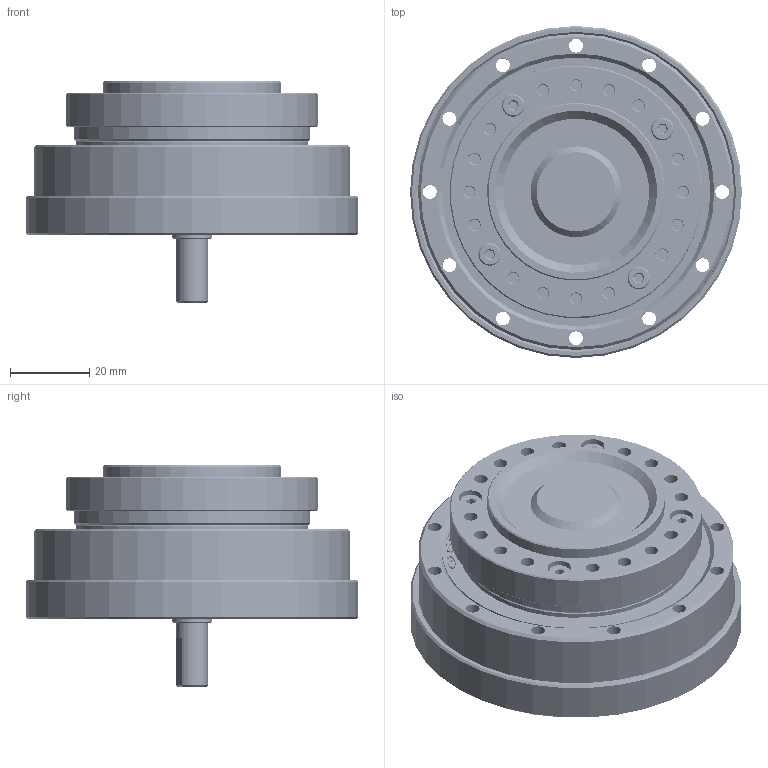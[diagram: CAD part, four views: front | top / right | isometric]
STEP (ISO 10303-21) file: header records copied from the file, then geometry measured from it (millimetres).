
FILE_DESCRIPTION(/* description */ (''),/* implementation_level */ '2;1');
FILE_NAME(/* name */ 'XBJ17成品图.prt.stp',/* time_stamp */ '2022-07-21T18:17:42+08:00',/* author */ (''),/* organization */ (''),/* preprocessor_version */ 'ST-DEVELOPER v16',/* originating_system */ 'SIEMENS PLM Software NX 10.0',/* authorisation */ '');
FILE_SCHEMA (('CONFIG_CONTROL_DESIGN'));
Products named in the file (20): M2X6; XBK17-4-1-1销子; M3X12; 深沟球轴承697-ZZ; 17-柔性轴承（日标）; XBS17-3-1凸轮; 平键销3X8; XBJ17-5输入轴; G10205; 内卡簧φ22X1.0; 深沟球轴承6900-ZZ; XBJ17-7下盖板; XBJ17-6上盖板; YM3X10; XBK17-1钢轮; G59685; XBK17-4-2外圈; XBK17-2柔轮; XBK17-4-1内芯_MODEL; XBJ17成品图
Assembly tree (25 placements, depth 3):
  XBJ17成品图
    XBK17-2柔轮
    XBK17-4-2外圈
    G59685
    XBK17-4-1内芯_MODEL
      XBK17-4-1-1销子
      M2X6
    XBK17-1钢轮
    YM3X10  x4
    XBJ17-6上盖板
    XBJ17-7下盖板
    深沟球轴承6900-ZZ
    内卡簧φ22X1.0
    G10205
    XBJ17-5输入轴
    平键销3X8
    XBS17-3-1凸轮
    17-柔性轴承（日标）
    深沟球轴承697-ZZ
    M3X12  x4
Bounding box: 84 x 84 x 56 mm (x, y, z)
Volume: 113466.8 mm3; surface area: 96649.6 mm2
Topology: 69 solids, 70 shells, 1160 faces, 2882 edges, 1881 vertices
Faces by surface type: plane 379, cylinder 316, cone 206, bspline 115, extrusion 83, sphere 42, torus 19
Full cylindrical faces by diameter (mm): 1 x2, 1.5 x2, 2.3 x1, 2.5 x4, 2.7 x33, 3.5 x84, 4 x2, 5.6 x4, 5.68 x4, 6 x4, 6.2 x4, 7 x2, 8 x2, 9.4 x2, 10 x3, 12 x1, 13 x1, 13.4 x2, 14 x1, 14.5 x1, 15.2 x2, 17 x4, 19.6 x2, 20 x2, 22 x3, 23 x1, 28 x1, 28.1 x1, 30.3 x1, 31.5 x1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
Entity records: 151805 total; most frequent: CARTESIAN_POINT 129788, ORIENTED_EDGE 3614, DIRECTION 3500, EDGE_CURVE 1807, EDGE_LOOP 1633, AXIS2_PLACEMENT_3D 1512, VERTEX_POINT 1426, FACE_BOUND 1207
